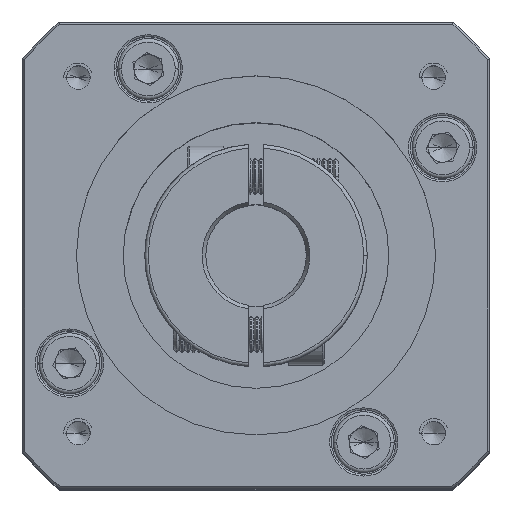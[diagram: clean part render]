
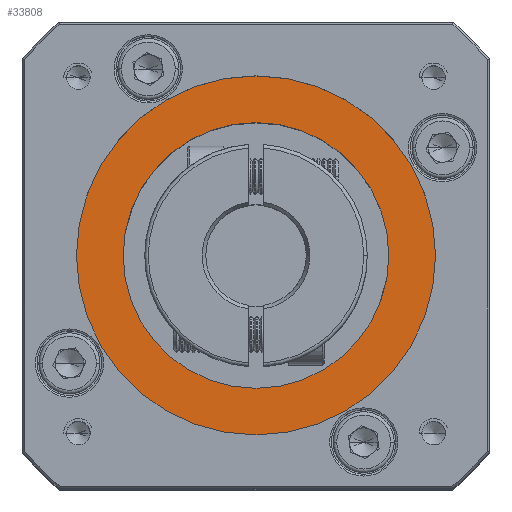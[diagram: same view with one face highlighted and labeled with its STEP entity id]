
A CAD part, top view. The second image highlights one B-rep face of the part: STEP entity #33808.
In plain terms, the highlighted planar face has unit normal (0, 0, 1).
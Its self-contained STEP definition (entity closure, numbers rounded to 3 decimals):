
#1525 = CARTESIAN_POINT ( 'NONE',  ( 15.384, 13.876, 148.65 ) ) ;
#5907 = ORIENTED_EDGE ( 'NONE', *, *, #49263, .T. ) ;
#6658 = ORIENTED_EDGE ( 'NONE', *, *, #77280, .T. ) ;
#9819 = DIRECTION ( 'NONE',  ( 1., 0., 0. ) ) ;
#10041 = AXIS2_PLACEMENT_3D ( 'NONE', #14679, #72025, #22918 ) ;
#13394 = ORIENTED_EDGE ( 'NONE', *, *, #80777, .T. ) ;
#14679 = CARTESIAN_POINT ( 'NONE',  ( 15.384, 13.876, 148.65 ) ) ;
#15023 = CIRCLE ( 'NONE', #87165, 25. ) ;
#15928 = CIRCLE ( 'NONE', #17295, 25. ) ;
#17295 = AXIS2_PLACEMENT_3D ( 'NONE', #1525, #58950, #9819 ) ;
#17755 = DIRECTION ( 'NONE',  ( 0., 0., 1. ) ) ;
#19295 = FACE_OUTER_BOUND ( 'NONE', #45373, .T. ) ;
#22770 = VERTEX_POINT ( 'NONE', #63713 ) ;
#22918 = DIRECTION ( 'NONE',  ( 1., 0., 0. ) ) ;
#30743 = ORIENTED_EDGE ( 'NONE', *, *, #92257, .T. ) ;
#31286 = DIRECTION ( 'NONE',  ( 0., 0., -1. ) ) ;
#33808 = ADVANCED_FACE ( 'NONE', ( #19295, #82180 ), #88177, .T. ) ;
#34040 = CIRCLE ( 'NONE', #104544, 18.5 ) ;
#40779 = VERTEX_POINT ( 'NONE', #74351 ) ;
#42502 = EDGE_LOOP ( 'NONE', ( #5907, #30743 ) ) ;
#44963 = CARTESIAN_POINT ( 'NONE',  ( 15.384, 13.876, 148.65 ) ) ;
#45373 = EDGE_LOOP ( 'NONE', ( #13394, #6658 ) ) ;
#49263 = EDGE_CURVE ( 'NONE', #98599, #57416, #34040, .T. ) ;
#53194 = DIRECTION ( 'NONE',  ( 1., 0., 0. ) ) ;
#57416 = VERTEX_POINT ( 'NONE', #79462 ) ;
#58950 = DIRECTION ( 'NONE',  ( 0., 0., 1. ) ) ;
#63285 = AXIS2_PLACEMENT_3D ( 'NONE', #44963, #102436, #53194 ) ;
#63713 = CARTESIAN_POINT ( 'NONE',  ( -9.616, 13.876, 148.65 ) ) ;
#66823 = CARTESIAN_POINT ( 'NONE',  ( 15.384, 13.876, 148.65 ) ) ;
#72025 = DIRECTION ( 'NONE',  ( 0., 0., 1. ) ) ;
#74351 = CARTESIAN_POINT ( 'NONE',  ( 40.384, 13.876, 148.65 ) ) ;
#75112 = DIRECTION ( 'NONE',  ( 1., 0., 0. ) ) ;
#77280 = EDGE_CURVE ( 'NONE', #22770, #40779, #15023, .T. ) ;
#79462 = CARTESIAN_POINT ( 'NONE',  ( -3.116, 13.876, 148.65 ) ) ;
#80413 = CARTESIAN_POINT ( 'NONE',  ( 15.384, 13.876, 148.65 ) ) ;
#80777 = EDGE_CURVE ( 'NONE', #40779, #22770, #15928, .T. ) ;
#82180 = FACE_BOUND ( 'NONE', #42502, .T. ) ;
#87165 = AXIS2_PLACEMENT_3D ( 'NONE', #66823, #17755, #75112 ) ;
#88177 = PLANE ( 'NONE',  #10041 ) ;
#88648 = DIRECTION ( 'NONE',  ( 1., 0., 0. ) ) ;
#92257 = EDGE_CURVE ( 'NONE', #57416, #98599, #94826, .T. ) ;
#94826 = CIRCLE ( 'NONE', #63285, 18.5 ) ;
#98599 = VERTEX_POINT ( 'NONE', #105806 ) ;
#102436 = DIRECTION ( 'NONE',  ( 0., 0., -1. ) ) ;
#104544 = AXIS2_PLACEMENT_3D ( 'NONE', #80413, #31286, #88648 ) ;
#105806 = CARTESIAN_POINT ( 'NONE',  ( 33.884, 13.876, 148.65 ) ) ;
